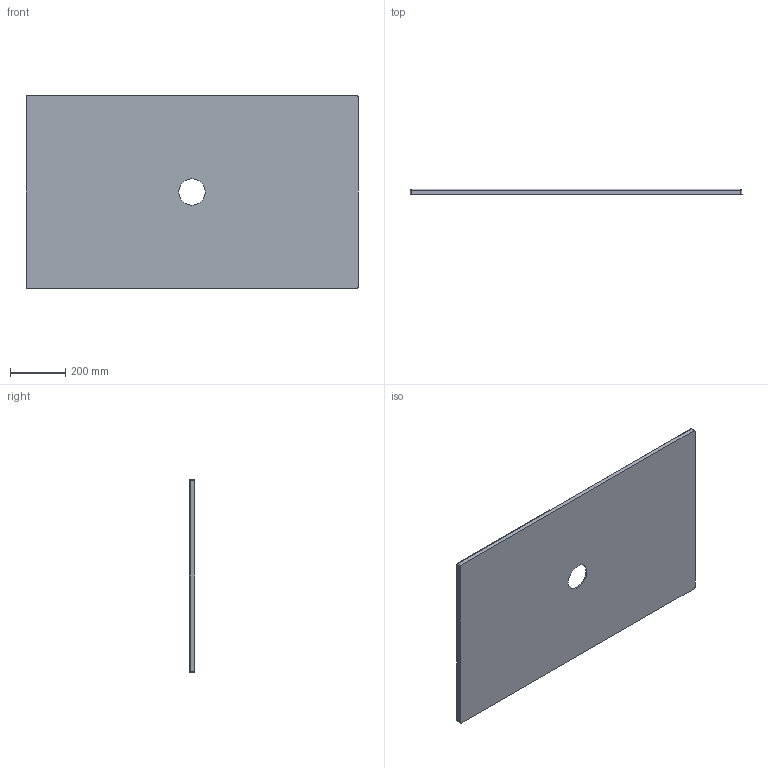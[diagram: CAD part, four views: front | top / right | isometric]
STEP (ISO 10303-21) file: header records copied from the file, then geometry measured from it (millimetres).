
FILE_DESCRIPTION (( 'STEP AP203' ), '1' );
FILE_NAME ('SDPD12007020.STEP', '2023-03-31T10:41:22', ( '' ), ( '' ), 'SwSTEP 2.0', 'SolidWorks 2023', '' );
FILE_SCHEMA (( 'CONFIG_CONTROL_DESIGN' ));
Length unit declared in the file: millimetre
Products named in the file (1): SDPD12007020
Bounding box: 1200 x 20 x 700 mm (x, y, z)
Volume: 13967221.4 mm3; surface area: 1733116.2 mm2
Topology: 1 solids, 1 shells, 26 faces, 62 edges, 40 vertices
Faces by surface type: cylinder 9, plane 8, sphere 4, bspline 2, torus 2, cone 1
Full cylindrical faces by diameter (mm): 95 x1
Entity records: 2523 total; most frequent: CARTESIAN_POINT 1907, DIRECTION 108, ORIENTED_EDGE 104, EDGE_CURVE 52, AXIS2_PLACEMENT_3D 44, VERTEX_POINT 36, EDGE_LOOP 36, FACE_OUTER_BOUND 31
